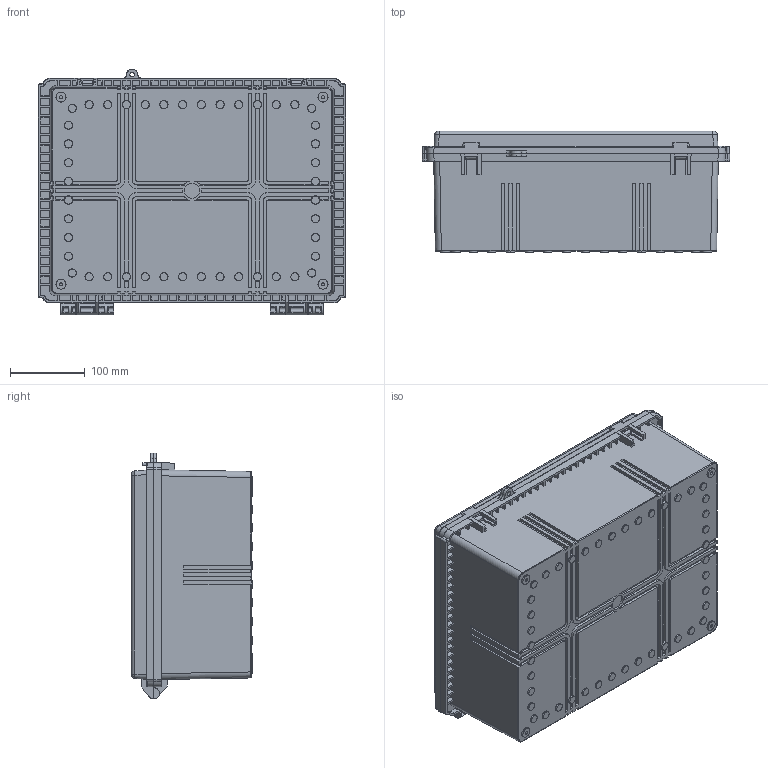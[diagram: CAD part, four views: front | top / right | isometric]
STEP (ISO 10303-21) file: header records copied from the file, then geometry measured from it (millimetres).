
FILE_DESCRIPTION (( 'STEP AP203' ), '1' );
FILE_NAME ('EC-3040.STEP', '2020-01-23T09:16:05', ( '' ), ( '' ), 'SwSTEP 2.0', 'SolidWorks 2020', '' );
FILE_SCHEMA (( 'CONFIG_CONTROL_DESIGN' ));
Length unit declared in the file: millimetre
Products named in the file (3): EC-3040; EC-3040-P-1-G-0; EC-3040-P-2-G-0
Assembly tree (2 placements, depth 2):
  EC-3040
    EC-3040-P-1-G-0
    EC-3040-P-2-G-0
Bounding box: 411 x 162 x 328.5 mm (x, y, z)
Volume: 1733459.7 mm3; surface area: 1007887.9 mm2
Topology: 2 solids, 2 shells, 1544 faces, 4103 edges, 2696 vertices
Faces by surface type: plane 1027, cone 255, cylinder 214, bspline 40, torus 8
Entity records: 49148 total; most frequent: CARTESIAN_POINT 10550, ORIENTED_EDGE 8206, DIRECTION 7659, EDGE_CURVE 4103, VECTOR 2925, LINE 2925, VERTEX_POINT 2696, AXIS2_PLACEMENT_3D 2367
